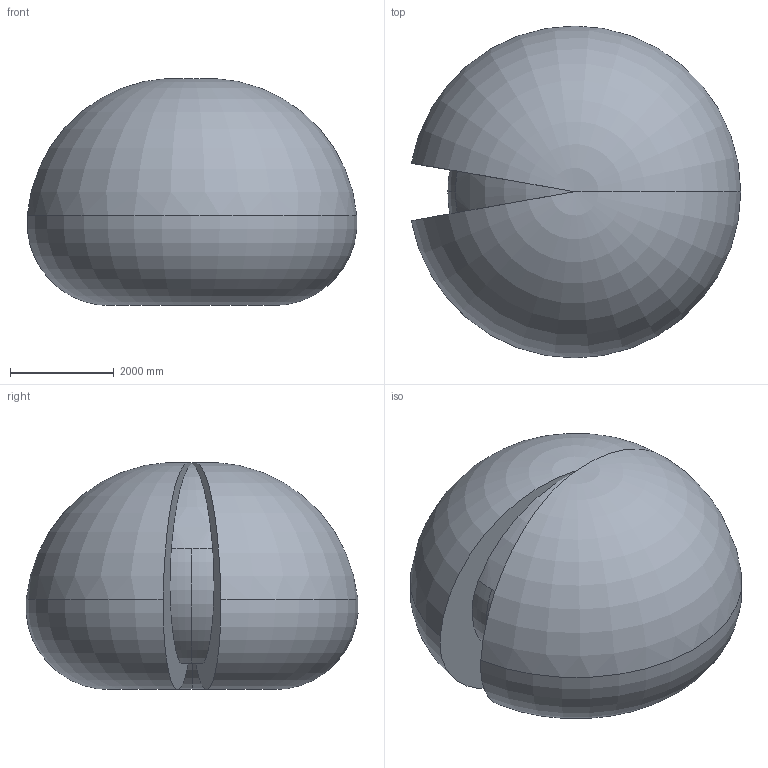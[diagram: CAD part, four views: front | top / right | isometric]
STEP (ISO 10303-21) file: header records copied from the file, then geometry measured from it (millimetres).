
FILE_DESCRIPTION (( 'STEP AP214' ), '1' );
FILE_NAME ('IRB6720_160kg-320_OC_00_Working-space.step', '2026-06-10T10:40:57', ( '' ), ( '' ), 'SwSTEP 2.0', 'SolidWorks 2024', '' );
FILE_SCHEMA (( 'AUTOMOTIVE_DESIGN' ));
Length unit declared in the file: millimetre
Products named in the file (1): IRB6720_160kg-320_OC_00_Working-space
Bounding box: 6341.15 x 6389.68 x 4367.91 mm (x, y, z)
Volume: 92987273966.9 mm3; surface area: 132988350.1 mm2
Topology: 1 solids, 1 shells, 15 faces, 38 edges, 20 vertices
Faces by surface type: torus 13, plane 2
Entity records: 455 total; most frequent: DIRECTION 98, CARTESIAN_POINT 69, ORIENTED_EDGE 66, AXIS2_PLACEMENT_3D 49, EDGE_CURVE 33, CIRCLE 33, VERTEX_POINT 20, ADVANCED_FACE 15
